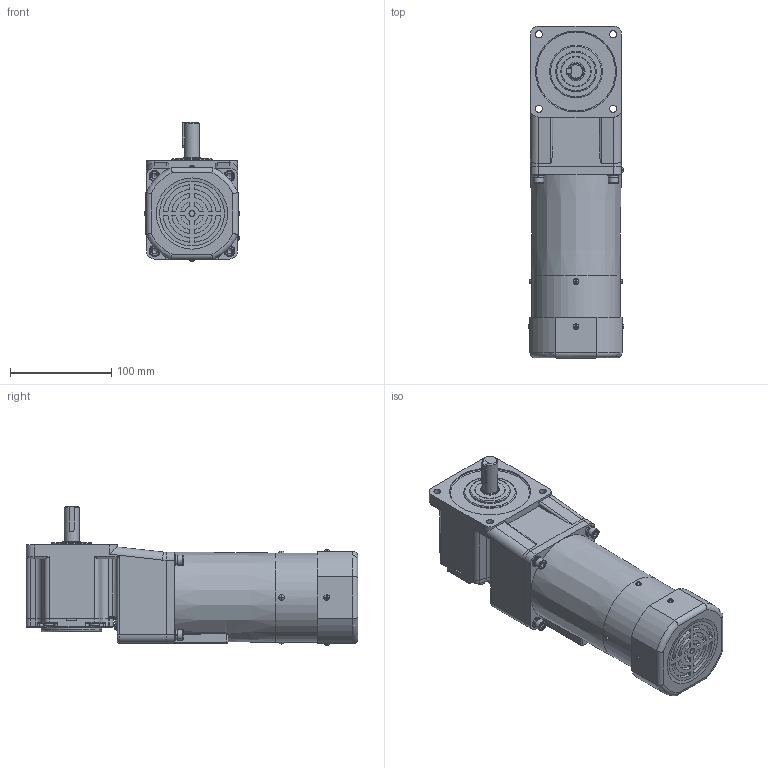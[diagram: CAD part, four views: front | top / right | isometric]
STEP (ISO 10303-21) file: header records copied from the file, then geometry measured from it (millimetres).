
FILE_DESCRIPTION(/* description */ (''),/* implementation_level */ '2;1');
FILE_NAME(/* name */ '90+中实直角-刹车调速风叶-90W.stp',/* time_stamp */ '2022-11-01T13:38:43+08:00',/* author */ (''),/* organization */ (''),/* preprocessor_version */ 'ST-DEVELOPER v16.7',/* originating_system */ 'SIEMENS PLM Software NX 1899',/* authorisation */ '');
FILE_SCHEMA (('AP203_CONFIGURATION_CONTROLLED_3D_DESIGN_OF_MECHANICAL_PARTS_AND_ASSEMBLIES_MIM_LF { 1 0 10303 403 2 1 2}'));
Length unit declared in the file: millimetre
Products named in the file (1): yf1854BC0762nk2a
Bounding box: 94.81 x 328 x 137.41 mm (x, y, z)
Volume: 2219972.9 mm3; surface area: 169626.2 mm2
Topology: 15 solids, 15 shells, 765 faces, 1822 edges, 1126 vertices
Faces by surface type: plane 419, cylinder 222, torus 59, cone 45, bspline 12, sphere 8
Full cylindrical faces by diameter (mm): 5 x4, 5.5 x4, 5.795 x4, 6 x1, 6.4 x4, 7 x8, 9.5 x4, 10 x4, 11 x4, 15 x1, 18 x1, 30 x1, 40 x1, 52 x1, 60 x1, 67 x1, 76 x1, 80 x1, 86 x2, 87.914 x1
Entity records: 24156 total; most frequent: CARTESIAN_POINT 5985, DIRECTION 3501, ORIENTED_EDGE 3330, EDGE_CURVE 1665, AXIS2_PLACEMENT_3D 1326, VERTEX_POINT 1080, EDGE_LOOP 931, LINE 849
